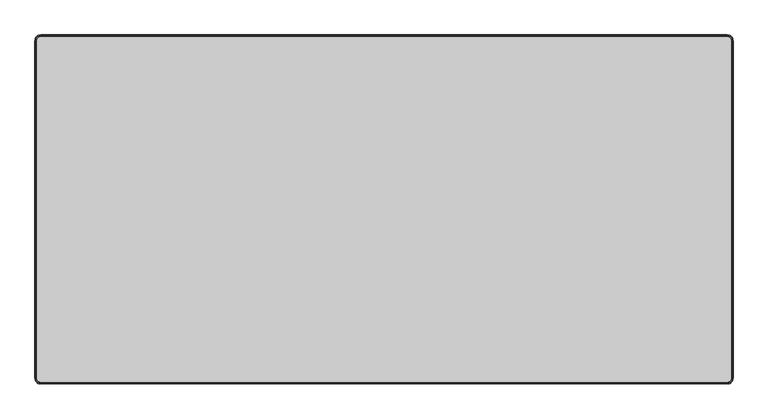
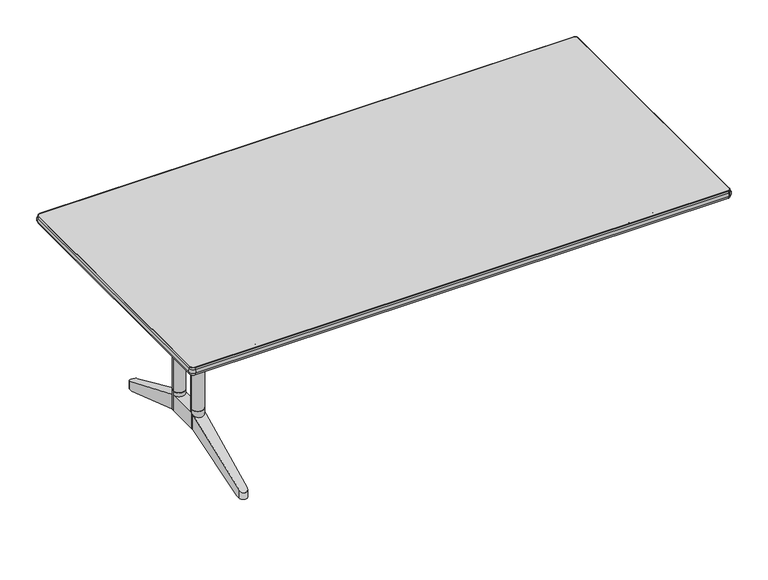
"""IFC4 building model written with IfcOpenShell, lengths in millimetres: furniture geometry."""

from ifc_helpers import new_model, si_unit, point, frame, frame_2d, origin, place, context, project, spatial, polyline, circle_curve, ellipse_curve, trimmed, segment, composite_curve, outline, extrude, source, transform, mapped, element, save
from ifc_brep_helpers import plane_surface, cylinder_surface, revolved_surface, advanced_brep


def furniture_e58b94e2(model_context):
    return source(origin(), model_context, "Body", "SolidModel", [
        extrude(outline(composite_curve([segment(trimmed(circle_curve(frame_2d((-660.4, -154.0488451)), 20.0), [point((-680.4, -154.0488451))], [point((-640.4, -154.0488451))], False, "CARTESIAN"), True, "CONTINUOUS"), segment(trimmed(circle_curve(frame_2d((-660.4, -154.0488451)), 20.0), [point((-640.4, -154.0488451))], [point((-680.4, -154.0488451))], False, "CARTESIAN"), True, "CONTINUOUS")], self_intersect=False)), frame((0.0, 0.0, 193.3080085), z_axis=(0.0, 0.0, 1.0), x_axis=(1.0, 0.0, 0.0)), (0.0, 0.0, 1.0), 68.8536941),
        extrude(outline(composite_curve([segment(trimmed(circle_curve(frame_2d((-660.4, -44.0488461)), 20.0), [point((-680.4, -44.0488461))], [point((-640.4, -44.0488461))], False, "CARTESIAN"), True, "CONTINUOUS"), segment(trimmed(circle_curve(frame_2d((-660.4, -44.0488461)), 20.0), [point((-640.4, -44.0488461))], [point((-680.4, -44.0488461))], False, "CARTESIAN"), True, "CONTINUOUS")], self_intersect=False)), frame((0.0, 0.0, 193.3080085), z_axis=(0.0, 0.0, 1.0), x_axis=(1.0, 0.0, 0.0)), (0.0, 0.0, 1.0), 68.8536941),
        extrude(outline(composite_curve([segment(trimmed(circle_curve(frame_2d((-660.4, -154.0488451)), 20.0), [point((-680.4, -154.0488451))], [point((-640.4, -154.0488451))], False, "CARTESIAN"), True, "CONTINUOUS"), segment(trimmed(circle_curve(frame_2d((-660.4, -154.0488451)), 20.0), [point((-640.4, -154.0488451))], [point((-680.4, -154.0488451))], False, "CARTESIAN"), True, "CONTINUOUS")], self_intersect=False)), frame((0.0, 0.0, 262.1617027), z_axis=(0.0, 0.0, 1.0), x_axis=(1.0, 0.0, 0.0)), (0.0, 0.0, 1.0), 318.0882973),
        extrude(outline(composite_curve([segment(trimmed(circle_curve(frame_2d((-660.4, -44.0488461)), 20.0), [point((-680.4, -44.0488461))], [point((-640.4, -44.0488461))], False, "CARTESIAN"), True, "CONTINUOUS"), segment(trimmed(circle_curve(frame_2d((-660.4, -44.0488461)), 20.0), [point((-640.4, -44.0488461))], [point((-680.4, -44.0488461))], False, "CARTESIAN"), True, "CONTINUOUS")], self_intersect=False)), frame((0.0, 0.0, 262.1617027), z_axis=(0.0, 0.0, 1.0), x_axis=(1.0, 0.0, 0.0)), (0.0, 0.0, 1.0), 318.0882973),
        extrude(outline(polyline([(-634.3999882, 147.9511612), (-634.3999882, -352.0488426), (-686.4000118, -352.0488426), (-686.4000118, 147.9511612), (-634.3999882, 147.9511612)])), frame((0.0, 0.0, 676.2500168), z_axis=(0.0, 0.0, 1.0), x_axis=(1.0, 0.0, 0.0)), (0.0, 0.0, 1.0), 27.9999624),
        advanced_brep(
        [(-675.3998762, -140.8200278, 676.2500168), (-645.3998905, -140.8201331, 676.2500168), (-645.3998905, -134.0488456, 676.2500168), (-675.3998762, -134.0488456, 676.2500168), (-645.3998905, -57.2775581, 676.2500168), (-675.3998762, -57.2776634, 676.2500168), (-675.3998762, -64.0488456, 676.2500168), (-645.3998905, -64.0488456, 676.2500168), (-675.3998762, -57.2776634, 580.25), (-645.3998905, -57.2775581, 580.25), (-645.3998905, -140.8201331, 580.25), (-675.3998762, -140.8200278, 580.25), (-675.3998762, -134.0488456, 598.2500176), (-675.3998762, -64.0488456, 598.2500176), (-645.3998905, -64.0488456, 598.2500176), (-645.3998905, -134.0488456, 598.2500176)],
        [
            (0, 1, circle_curve(frame((-660.3999298, -154.0488451, 676.2500168), z_axis=(0.0, 0.0, 1.0), x_axis=(1.0, 0.0, 0.0)), 20.0)),
            (1, 2),
            (2, 3),
            (3, 0),
            (4, 5, circle_curve(frame((-660.3999298, -44.0488461, 676.2500168), z_axis=(0.0, 0.0, 1.0), x_axis=(1.0, 0.0, 0.0)), 20.0)),
            (5, 6),
            (6, 7),
            (7, 4),
            (8, 9, circle_curve(frame((-660.3999298, -44.0488461, 580.25), z_axis=(0.0, 0.0, -1.0), x_axis=(1.0, 0.0, 0.0)), 20.0)),
            (9, 10),
            (10, 11, circle_curve(frame((-660.3999298, -154.0488451, 580.25), z_axis=(0.0, 0.0, -1.0), x_axis=(1.0, 0.0, 0.0)), 20.0)),
            (11, 8),
            (11, 0),
            (3, 12),
            (12, 13),
            (13, 6),
            (5, 8),
            (10, 1),
            (9, 4),
            (7, 14),
            (14, 15),
            (15, 2),
            (15, 12),
            (14, 13),
        ],
        [
            plane_surface(frame((-675.3998762, -140.8200278, 676.2500168), z_axis=(0.0, 0.0, 1.0), x_axis=(0.0, -1.0, 0.0))),
            plane_surface(frame((-675.3998762, -140.8200278, 580.25), z_axis=(0.0, 0.0, -1.0), x_axis=(0.0, 1.0, 0.0))),
            plane_surface(frame((-675.3998762, -57.2776634, 676.2500168), z_axis=(-1.0, 0.0, 0.0), x_axis=(0.0, 0.0, -1.0))),
            cylinder_surface(frame((-660.3999298, -154.0488451, 580.25), z_axis=(0.0, 0.0, 1.0), x_axis=(1.0, 0.0, 0.0)), 20.0),
            plane_surface(frame((-645.3998905, -140.8201331, 676.2500168), z_axis=(1.0, 0.0, 0.0), x_axis=(0.0, 0.0, -1.0))),
            cylinder_surface(frame((-660.3999298, -44.0488461, 580.25), z_axis=(0.0, 0.0, 1.0), x_axis=(1.0, 0.0, 0.0)), 20.0),
            plane_surface(frame((-645.3998905, -134.0488456, 676.2500168), z_axis=(0.0, 1.0, 0.0), x_axis=(-1.0, 0.0, 0.0))),
            plane_surface(frame((-645.3998905, -134.0488456, 598.2500176), z_axis=(0.0, 0.0, 1.0), x_axis=(-1.0, 0.0, 0.0))),
            plane_surface(frame((-645.3998905, -64.0488456, 598.2500176), z_axis=(0.0, -1.0, 0.0), x_axis=(-1.0, 0.0, 0.0))),
        ],
        [
            (0, [[1, 2, 3, 4]]),
            (0, [[5, 6, 7, 8]]),
            (1, [[9, 10, 11, 12]]),
            (2, [[-12, 13, -4, 14, 15, 16, -6, 17]]),
            (3, [[-1, -13, -11, 18]]),
            (4, [[-10, 19, -8, 20, 21, 22, -2, -18]]),
            (5, [[-5, -19, -9, -17]]),
            (6, [[23, -14, -3, -22]]),
            (7, [[-23, -21, 24, -15]]),
            (8, [[-24, -20, -7, -16]]),
        ],
    ),
        advanced_brep(
        [(-640.4000182, -154.0488451, 248.3080085), (-640.4000182, -44.0488461, 248.3080085), (-680.4000182, -44.0488461, 248.3080085), (-680.4000182, -154.0488451, 248.3080085), (-680.4000182, -44.0488461, 193.3080085), (-680.4000182, -154.0488451, 193.3080085), (-640.4000182, -154.0488451, 193.3080085), (-640.4000182, -44.0488461, 193.3080085), (-646.9271049, 208.4135103, 105.0), (-673.872897, 208.4135103, 105.0), (-673.5262294, 221.8222582, 105.0), (-647.2737706, 221.8222564, 105.0), (-673.5262294, 221.8222582, 133.4205559), (-647.2737706, 221.8222564, 133.4205567), (-640.6000412, -36.3121196, 193.3080085), (-680.1999941, -36.3121196, 193.3080085), (-647.2737706, -419.9199475, 133.4205567), (-673.5262294, -419.9199493, 133.4205559), (-647.2737706, -419.9199475, 105.0), (-646.9271049, -406.5112014, 105.0), (-640.6000412, -161.7855715, 193.3080085), (-673.5262294, -419.9199493, 105.0), (-680.1999941, -161.7855715, 193.3080085), (-673.872897, -406.5112014, 105.0)],
        [
            (0, 1),
            (1, 2),
            (2, 3),
            (3, 0),
            (2, 4),
            (4, 5),
            (5, 3),
            (0, 6),
            (6, 7),
            (7, 1),
            (8, 9),
            (9, 10),
            (10, 11, circle_curve(frame((-660.4, 221.4828948, 105.0), z_axis=(0.0, 0.0, -1.0), x_axis=(1.0, 0.0, 0.0)), 13.1306156)),
            (11, 8),
            (12, 2),
            (1, 13),
            (13, 12, ellipse_curve(frame((-660.4, 221.4828948, 133.5672007), z_axis=(0.0, 0.3966672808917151, 0.9179624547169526), x_axis=(0.0, 0.9179624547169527, -0.39666728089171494)), 14.3040878, 13.1306156)),
            (8, 14),
            (14, 15),
            (15, 9),
            (16, 0),
            (3, 17),
            (17, 16, ellipse_curve(frame((-660.4, -419.5805859, 133.5672007), z_axis=(0.0, -0.3966672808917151, 0.9179624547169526), x_axis=(0.0, -0.9179624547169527, -0.39666728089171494)), 14.3040878, 13.1306156)),
            (16, 18),
            (18, 19),
            (19, 20),
            (20, 6),
            (17, 21),
            (21, 18, circle_curve(frame((-660.4, -419.5805859, 105.0), z_axis=(0.0, 0.0, 1.0), x_axis=(1.0, 0.0, 0.0)), 13.1306156)),
            (5, 22),
            (22, 23),
            (23, 21),
            (12, 10),
            (15, 4),
            (13, 11),
            (7, 14),
            (23, 19),
            (22, 20),
        ],
        [
            plane_surface(frame((-640.4000182, -44.0488461, 248.3080085), z_axis=(0.0, 0.0, 1.0), x_axis=(0.0, 1.0, 0.0))),
            plane_surface(frame((-680.4000182, -44.0488461, 248.3080085), z_axis=(-1.0, 0.0, 0.0), x_axis=(0.0, 0.0, -1.0))),
            plane_surface(frame((-640.4000182, -154.0488451, 248.3080085), z_axis=(1.0, 0.0, 0.0), x_axis=(0.0, 0.0, -1.0))),
            plane_surface(frame((-639.0205415, 208.4135103, 105.0), z_axis=(0.0, 0.0, -1.0), x_axis=(-1.0, 0.0, 0.0))),
            plane_surface(frame((-639.0205415, 235.9511544, 127.3152182), z_axis=(0.0, 0.3966672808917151, 0.9179624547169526), x_axis=(-1.0, 0.0, 0.0))),
            plane_surface(frame((-639.0205415, -36.3121196, 193.3080085), z_axis=(0.0, -0.3394229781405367, -0.9406338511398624), x_axis=(-1.0, 0.0, 0.0))),
            plane_surface(frame((-639.0205415, -154.0488451, 248.3080085), z_axis=(0.0, -0.3966672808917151, 0.9179624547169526), x_axis=(-1.0, 0.0, 0.0))),
            plane_surface(frame((-640.4000182, -154.0488451, 249.0000084), z_axis=(0.9996659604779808, -0.025845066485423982, 0.0), x_axis=(0.0, 0.0, -1.0))),
            cylinder_surface(frame((-660.4, -419.5805859, 90.0000025), z_axis=(0.0, 0.0, -1.0), x_axis=(1.0, 0.0, 0.0)), 13.1306156),
            plane_surface(frame((-673.5262294, -419.9199493, 249.0000084), z_axis=(-0.9996659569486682, -0.025845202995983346, 0.0), x_axis=(0.0, 0.0, -1.0))),
            plane_surface(frame((-680.4000182, -44.0488461, 249.0000084), z_axis=(-0.9996659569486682, 0.025845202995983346, 0.0), x_axis=(0.0, 0.0, -1.0))),
            cylinder_surface(frame((-660.4, 221.4828948, 0.0), z_axis=(0.0, 0.0, -1.0), x_axis=(1.0, 0.0, 0.0)), 13.1306156),
            plane_surface(frame((-647.2737706, 221.8222564, 249.0000084), z_axis=(0.9996659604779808, 0.025845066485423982, 0.0), x_axis=(0.0, 0.0, -1.0))),
            plane_surface(frame((-639.0205415, -434.0488456, 105.0), z_axis=(0.0, 0.0, -1.0), x_axis=(-1.0, 0.0, 0.0))),
            plane_surface(frame((-639.0205415, -406.5112014, 105.0), z_axis=(0.0, 0.3394229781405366, -0.9406338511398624), x_axis=(-1.0, 0.0, 0.0))),
            plane_surface(frame((-639.0205415, -44.0488461, 193.3080085), z_axis=(0.0, 0.0, -1.0), x_axis=(-1.0, 0.0, 0.0))),
        ],
        [
            (0, [[1, 2, 3, 4]]),
            (1, [[-3, 5, 6, 7]]),
            (2, [[-1, 8, 9, 10]]),
            (3, [[11, 12, 13, 14]]),
            (4, [[15, -2, 16, 17]]),
            (5, [[-11, 18, 19, 20]]),
            (6, [[21, -4, 22, 23]]),
            (7, [[24, 25, 26, 27, -8, -21]]),
            (8, [[-24, -23, 28, 29]]),
            (9, [[-28, -22, -7, 30, 31, 32]]),
            (10, [[33, -12, -20, 34, -5, -15]]),
            (11, [[-33, -17, 35, -13]]),
            (12, [[-35, -16, -10, 36, -18, -14]]),
            (13, [[37, -25, -29, -32]]),
            (14, [[-37, -31, 38, -26]]),
            (15, [[-19, -36, -9, -27, -38, -30, -6, -34]]),
        ],
    ),
        extrude(outline(composite_curve([segment(trimmed(circle_curve(frame_2d((-899.4, 343.1511544)), 10.0), [point((-909.4, 343.1511544))], [point((-899.4, 353.1511544))], False, "CARTESIAN"), True, "CONTINUOUS"), segment(polyline([(-899.4, 353.1511544), (899.4, 353.1511544)]), True, "CONTINUOUS"), segment(trimmed(circle_curve(frame_2d((899.4, 343.1511544)), 10.0), [point((899.4, 353.1511544))], [point((909.4, 343.1511544))], False, "CARTESIAN"), True, "CONTINUOUS"), segment(polyline([(909.4, 343.1511544), (909.4, -541.2488456)]), True, "CONTINUOUS"), segment(trimmed(circle_curve(frame_2d((899.4, -541.2488456)), 10.0), [point((909.4, -541.2488456))], [point((899.4, -551.2488456))], False, "CARTESIAN"), True, "CONTINUOUS"), segment(polyline([(899.4, -551.2488456), (-899.4, -551.2488456)]), True, "CONTINUOUS"), segment(trimmed(circle_curve(frame_2d((-899.4, -541.2488456)), 10.0), [point((-899.4, -551.2488456))], [point((-909.4, -541.2488456))], False, "CARTESIAN"), True, "CONTINUOUS"), segment(polyline([(-909.4, -541.2488456), (-909.4, 343.1511544)]), True, "CONTINUOUS")], self_intersect=False)), frame((0.0, 0.0, 704.2499792), z_axis=(0.0, 0.0, 1.0), x_axis=(1.0, 0.0, 0.0)), (0.0, 0.0, 1.0), 26.0000208),
        extrude(outline(composite_curve([segment(trimmed(circle_curve(frame_2d((690.249998, -660.4)), 3.5), [point((686.749998, -660.4))], [point((693.749998, -660.4))], False, "CARTESIAN"), True, "CONTINUOUS"), segment(trimmed(circle_curve(frame_2d((690.249998, -660.4)), 3.5), [point((693.749998, -660.4))], [point((686.749998, -660.4))], False, "CARTESIAN"), True, "CONTINUOUS")], self_intersect=False)), frame((0.0, -482.6394749, 0.0), z_axis=(0.0, 1.0, 0.0), x_axis=(0.0, 0.0, 1.0)), (0.0, 0.0, 1.0), 130.5906323),
        extrude(outline(composite_curve([segment(trimmed(circle_curve(frame_2d((690.249998, 660.4)), 3.5), [point((686.749998, 660.4))], [point((693.749998, 660.4))], False, "CARTESIAN"), True, "CONTINUOUS"), segment(trimmed(circle_curve(frame_2d((690.249998, 660.4)), 3.5), [point((693.749998, 660.4))], [point((686.749998, 660.4))], False, "CARTESIAN"), True, "CONTINUOUS")], self_intersect=False)), frame((0.0, -482.6394749, 0.0), z_axis=(0.0, 1.0, 0.0), x_axis=(0.0, 0.0, 1.0)), (0.0, 0.0, 1.0), 130.5906323),
        advanced_brep(
        [(-899.4, -551.2488456, 704.2499792), (-909.4, -541.2488456, 704.2499792), (-909.4, -541.2488456, 730.25), (-899.4, -551.2488456, 730.25), (-899.4, -554.6983863, 710.6562743), (-912.8495407, -541.2488456, 710.6562743), (-910.6436764, -541.2488456, 704.2499792), (-899.4, -552.492522, 704.2499792), (-899.4, -554.6983863, 723.843705), (-912.8495407, -541.2488456, 723.843705), (-899.4, -552.492522, 730.25), (-910.6436764, -541.2488456, 730.25), (899.4, -551.2488456, 730.25), (899.4, -551.2488456, 704.2499792), (899.4, -552.492522, 704.2499792), (899.4, -554.6983863, 710.6562743), (899.4, -554.6983863, 723.843705), (899.4, -552.492522, 730.25), (909.4, -541.2488456, 704.2499792), (909.4, -541.2488456, 730.25), (912.8495407, -541.2488456, 710.6562743), (910.6436764, -541.2488456, 704.2499792), (912.8495407, -541.2488456, 723.843705), (910.6436764, -541.2488456, 730.25), (909.4, 343.1511544, 730.25), (909.4, 343.1511544, 704.2499792), (910.6436764, 343.1511544, 704.2499792), (912.8495407, 343.1511544, 710.6562743), (912.8495407, 343.1511544, 723.843705), (910.6436764, 343.1511544, 730.25), (899.4, 353.1511544, 704.2499792), (899.4, 353.1511544, 730.25), (899.4, 356.6006952, 710.6562743), (899.4, 354.3948309, 704.2499792), (899.4, 356.6006952, 723.843705), (899.4, 354.3948309, 730.25), (-899.4, 353.1511544, 730.25), (-899.4, 353.1511544, 704.2499792), (-899.4, 354.3948309, 704.2499792), (-899.4, 356.6006952, 710.6562743), (-899.4, 356.6006952, 723.843705), (-899.4, 354.3948309, 730.25), (-909.4, 343.1511544, 704.2499792), (-909.4, 343.1511544, 730.25), (-912.8495407, 343.1511544, 710.6562743), (-910.6436764, 343.1511544, 704.2499792), (-912.8495407, 343.1511544, 723.843705), (-910.6436764, 343.1511544, 730.25)],
        [
            (0, 1, circle_curve(frame((-899.4, -541.2488456, 704.2499792), z_axis=(0.0, 0.0, -1.0), x_axis=(-1.0, 0.0, 0.0)), 10.0)),
            (1, 2),
            (2, 3, circle_curve(frame((-899.4, -541.2488456, 730.25), z_axis=(0.0, 0.0, 1.0), x_axis=(-1.0, 0.0, 0.0)), 10.0)),
            (3, 0),
            (4, 5, circle_curve(frame((-899.4, -541.2488456, 710.6562743), z_axis=(0.0, 0.0, -1.0), x_axis=(-1.0, 0.0, 0.0)), 13.4495407)),
            (5, 6),
            (6, 7, circle_curve(frame((-899.4, -541.2488456, 704.2499792), z_axis=(0.0, 0.0, 1.0), x_axis=(-1.0, 0.0, 0.0)), 11.2436764)),
            (7, 4),
            (8, 9, circle_curve(frame((-899.4, -541.2488456, 723.843705), z_axis=(0.0, 0.0, -1.0), x_axis=(-1.0, 0.0, 0.0)), 13.4495407)),
            (9, 5, circle_curve(frame((-899.6040596, -541.2488456, 717.2499896), z_axis=(0.0, -1.0, 0.0), x_axis=(1.0, 0.0, 0.0)), 14.7959404)),
            (4, 8, circle_curve(frame((-899.4, -541.4529051, 717.2499896), z_axis=(-1.0, 0.0, 0.0), x_axis=(0.0, 1.0, 0.0)), 14.7959404)),
            (10, 11, circle_curve(frame((-899.4, -541.2488456, 730.25), z_axis=(0.0, 0.0, -1.0), x_axis=(-1.0, 0.0, 0.0)), 11.2436764)),
            (11, 9),
            (8, 10),
            (3, 12),
            (12, 13),
            (13, 0),
            (7, 14),
            (14, 15),
            (15, 4),
            (15, 16, circle_curve(frame((899.4, -541.4529051, 717.2499896), z_axis=(-1.0, 0.0, 0.0), x_axis=(0.0, 1.0, 0.0)), 14.7959404)),
            (16, 8),
            (16, 17),
            (17, 10),
            (18, 13, circle_curve(frame((899.4, -541.2488456, 704.2499792), z_axis=(0.0, 0.0, -1.0), x_axis=(0.0, -1.0, 0.0)), 10.0)),
            (12, 19, circle_curve(frame((899.4, -541.2488456, 730.25), z_axis=(0.0, 0.0, 1.0), x_axis=(0.0, -1.0, 0.0)), 10.0)),
            (19, 18),
            (20, 15, circle_curve(frame((899.4, -541.2488456, 710.6562743), z_axis=(0.0, 0.0, -1.0), x_axis=(0.0, -1.0, 0.0)), 13.4495407)),
            (14, 21, circle_curve(frame((899.4, -541.2488456, 704.2499792), z_axis=(0.0, 0.0, 1.0), x_axis=(0.0, -1.0, 0.0)), 11.2436764)),
            (21, 20),
            (22, 16, circle_curve(frame((899.4, -541.2488456, 723.843705), z_axis=(0.0, 0.0, -1.0), x_axis=(0.0, -1.0, 0.0)), 13.4495407)),
            (20, 22, circle_curve(frame((899.6040596, -541.2488456, 717.2499896), z_axis=(0.0, -1.0, 0.0), x_axis=(-1.0, 0.0, 0.0)), 14.7959404)),
            (23, 17, circle_curve(frame((899.4, -541.2488456, 730.25), z_axis=(0.0, 0.0, -1.0), x_axis=(0.0, -1.0, 0.0)), 11.2436764)),
            (22, 23),
            (19, 24),
            (24, 25),
            (25, 18),
            (21, 26),
            (26, 27),
            (27, 20),
            (27, 28, circle_curve(frame((899.6040596, 343.1511544, 717.2499896), z_axis=(0.0, -1.0, 0.0), x_axis=(-1.0, 0.0, 0.0)), 14.7959404)),
            (28, 22),
            (28, 29),
            (29, 23),
            (30, 25, circle_curve(frame((899.4, 343.1511544, 704.2499792), z_axis=(0.0, 0.0, -1.0), x_axis=(1.0, 0.0, 0.0)), 10.0)),
            (24, 31, circle_curve(frame((899.4, 343.1511544, 730.25), z_axis=(0.0, 0.0, 1.0), x_axis=(1.0, 0.0, 0.0)), 10.0)),
            (31, 30),
            (32, 27, circle_curve(frame((899.4, 343.1511544, 710.6562743), z_axis=(0.0, 0.0, -1.0), x_axis=(1.0, 0.0, 0.0)), 13.4495407)),
            (26, 33, circle_curve(frame((899.4, 343.1511544, 704.2499792), z_axis=(0.0, 0.0, 1.0), x_axis=(1.0, 0.0, 0.0)), 11.2436764)),
            (33, 32),
            (34, 28, circle_curve(frame((899.4, 343.1511544, 723.843705), z_axis=(0.0, 0.0, -1.0), x_axis=(1.0, 0.0, 0.0)), 13.4495407)),
            (32, 34, circle_curve(frame((899.4, 343.355214, 717.2499896), z_axis=(1.0, 0.0, 0.0), x_axis=(0.0, -1.0, 0.0)), 14.7959404)),
            (35, 29, circle_curve(frame((899.4, 343.1511544, 730.25), z_axis=(0.0, 0.0, -1.0), x_axis=(1.0, 0.0, 0.0)), 11.2436764)),
            (34, 35),
            (31, 36),
            (36, 37),
            (37, 30),
            (33, 38),
            (38, 39),
            (39, 32),
            (39, 40, circle_curve(frame((-899.4, 343.355214, 717.2499896), z_axis=(1.0, 0.0, 0.0), x_axis=(0.0, -1.0, 0.0)), 14.7959404)),
            (40, 34),
            (40, 41),
            (41, 35),
            (42, 37, circle_curve(frame((-899.4, 343.1511544, 704.2499792), z_axis=(0.0, 0.0, -1.0), x_axis=(0.0, 1.0, 0.0)), 10.0)),
            (36, 43, circle_curve(frame((-899.4, 343.1511544, 730.25), z_axis=(0.0, 0.0, 1.0), x_axis=(0.0, 1.0, 0.0)), 10.0)),
            (43, 42),
            (44, 39, circle_curve(frame((-899.4, 343.1511544, 710.6562743), z_axis=(0.0, 0.0, -1.0), x_axis=(0.0, 1.0, 0.0)), 13.4495407)),
            (38, 45, circle_curve(frame((-899.4, 343.1511544, 704.2499792), z_axis=(0.0, 0.0, 1.0), x_axis=(0.0, 1.0, 0.0)), 11.2436764)),
            (45, 44),
            (46, 40, circle_curve(frame((-899.4, 343.1511544, 723.843705), z_axis=(0.0, 0.0, -1.0), x_axis=(0.0, 1.0, 0.0)), 13.4495407)),
            (44, 46, circle_curve(frame((-899.6040596, 343.1511544, 717.2499896), z_axis=(0.0, 1.0, 0.0), x_axis=(1.0, 0.0, 0.0)), 14.7959404)),
            (47, 41, circle_curve(frame((-899.4, 343.1511544, 730.25), z_axis=(0.0, 0.0, -1.0), x_axis=(0.0, 1.0, 0.0)), 11.2436764)),
            (46, 47),
            (43, 2),
            (1, 42),
            (45, 6),
            (5, 44),
            (9, 46),
            (11, 47),
        ],
        [
            revolved_surface(polyline([(-909.4, -541.2488456, 730.25), (-909.4, -541.2488456, 704.2499792)]), (-899.4, -541.2488456, 730.25), (0.0, 0.0, 1.0)),
            revolved_surface(polyline([(-910.6436764, -541.2488456, 704.2499792), (-912.8495407, -541.2488456, 710.6562743)]), (-899.4, -541.2488456, 730.25), (0.0, 0.0, 1.0)),
            revolved_surface(trimmed(ellipse_curve(frame((-899.6040596, -541.2488456, 717.2499896), z_axis=(0.0, 1.0, 0.0), x_axis=(1.0, 0.0, 0.0)), 14.7959404, 14.7959404), [point((-912.8495407, -541.2488456, 710.6562743))], [point((-912.8495407, -541.2488456, 723.843705))], True, "CARTESIAN"), (-899.4, -541.2488456, 730.25), (0.0, 0.0, 1.0)),
            revolved_surface(polyline([(-912.8495407, -541.2488456, 723.843705), (-910.6436764, -541.2488456, 730.25)]), (-899.4, -541.2488456, 730.25), (0.0, 0.0, 1.0)),
            plane_surface(frame((-899.4, -551.2488456, 730.25), z_axis=(0.0, 1.0, 0.0), x_axis=(1.0, 0.0, 0.0))),
            plane_surface(frame((-899.4, -552.492522, 704.2499792), z_axis=(0.0, -0.9455185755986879, -0.32556815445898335), x_axis=(1.0, 0.0, 0.0))),
            cylinder_surface(frame((-899.4, -541.4529051, 717.2499896), z_axis=(-1.0, 0.0, 0.0), x_axis=(0.0, 1.0, 0.0)), 14.7959404),
            plane_surface(frame((-899.4, -554.6983863, 723.843705), z_axis=(0.0, -0.945518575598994, 0.32556815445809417), x_axis=(1.0, 0.0, 0.0))),
            revolved_surface(polyline([(899.4, -551.2488456, 730.25), (899.4, -551.2488456, 704.2499792)]), (899.4, -541.2488456, 730.25), (0.0, 0.0, 1.0)),
            revolved_surface(polyline([(899.4, -552.492522, 704.2499792), (899.4, -554.6983863, 710.6562743)]), (899.4, -541.2488456, 730.25), (0.0, 0.0, 1.0)),
            revolved_surface(trimmed(ellipse_curve(frame((899.4, -541.4529051, 717.2499896), z_axis=(-1.0, 0.0, 0.0), x_axis=(0.0, 1.0, 0.0)), 14.7959404, 14.7959404), [point((899.4, -554.6983863, 710.6562743))], [point((899.4, -554.6983863, 723.843705))], True, "CARTESIAN"), (899.4, -541.2488456, 730.25), (0.0, 0.0, 1.0)),
            revolved_surface(polyline([(899.4, -554.6983863, 723.843705), (899.4, -552.492522, 730.25)]), (899.4, -541.2488456, 730.25), (0.0, 0.0, 1.0)),
            plane_surface(frame((909.4, -541.2488456, 730.25), z_axis=(-1.0, 0.0, 0.0), x_axis=(0.0, 1.0, 0.0))),
            plane_surface(frame((910.6436764, -541.2488456, 704.2499792), z_axis=(0.9455185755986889, 0.0, -0.32556815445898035), x_axis=(0.0, 1.0, 0.0))),
            cylinder_surface(frame((899.6040596, -541.2488456, 717.2499896), z_axis=(0.0, -1.0, 0.0), x_axis=(-1.0, 0.0, 0.0)), 14.7959404),
            plane_surface(frame((912.8495407, -541.2488456, 723.843705), z_axis=(0.945518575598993, 0.0, 0.32556815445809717), x_axis=(0.0, 1.0, 0.0))),
            revolved_surface(polyline([(909.4, 343.1511544, 730.25), (909.4, 343.1511544, 704.2499792)]), (899.4, 343.1511544, 730.25), (0.0, 0.0, 1.0)),
            revolved_surface(polyline([(910.6436764, 343.1511544, 704.2499792), (912.8495407, 343.1511544, 710.6562743)]), (899.4, 343.1511544, 730.25), (0.0, 0.0, 1.0)),
            revolved_surface(trimmed(ellipse_curve(frame((899.6040596, 343.1511544, 717.2499896), z_axis=(0.0, -1.0, 0.0), x_axis=(-1.0, 0.0, 0.0)), 14.7959404, 14.7959404), [point((912.8495407, 343.1511544, 710.6562743))], [point((912.8495407, 343.1511544, 723.843705))], True, "CARTESIAN"), (899.4, 343.1511544, 730.25), (0.0, 0.0, 1.0)),
            revolved_surface(polyline([(912.8495407, 343.1511544, 723.843705), (910.6436764, 343.1511544, 730.25)]), (899.4, 343.1511544, 730.25), (0.0, 0.0, 1.0)),
            plane_surface(frame((899.4, 353.1511544, 730.25), z_axis=(0.0, -1.0, 0.0), x_axis=(-1.0, 0.0, 0.0))),
            plane_surface(frame((899.4, 354.3948309, 704.2499792), z_axis=(0.0, 0.9455185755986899, -0.32556815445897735), x_axis=(-1.0, 0.0, 0.0))),
            cylinder_surface(frame((899.4, 343.355214, 717.2499896), z_axis=(1.0, 0.0, 0.0), x_axis=(0.0, -1.0, 0.0)), 14.7959404),
            plane_surface(frame((899.4, 356.6006952, 723.843705), z_axis=(0.0, 0.945518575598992, 0.32556815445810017), x_axis=(-1.0, 0.0, 0.0))),
            revolved_surface(polyline([(-899.4, 353.1511544, 730.25), (-899.4, 353.1511544, 704.2499792)]), (-899.4, 343.1511544, 730.25), (0.0, 0.0, 1.0)),
            revolved_surface(polyline([(-899.4, 354.3948309, 704.2499792), (-899.4, 356.6006952, 710.6562743)]), (-899.4, 343.1511544, 730.25), (0.0, 0.0, 1.0)),
            revolved_surface(trimmed(ellipse_curve(frame((-899.4, 343.355214, 717.2499896), z_axis=(1.0, 0.0, 0.0), x_axis=(0.0, -1.0, 0.0)), 14.7959404, 14.7959404), [point((-899.4, 356.6006952, 710.6562743))], [point((-899.4, 356.6006952, 723.843705))], True, "CARTESIAN"), (-899.4, 343.1511544, 730.25), (0.0, 0.0, 1.0)),
            revolved_surface(polyline([(-899.4, 356.6006952, 723.843705), (-899.4, 354.3948309, 730.25)]), (-899.4, 343.1511544, 730.25), (0.0, 0.0, 1.0)),
            plane_surface(frame((-909.4, 343.1511544, 730.25), z_axis=(1.0, 0.0, 0.0), x_axis=(0.0, -1.0, 0.0))),
            plane_surface(frame((-910.6436764, 343.1511544, 704.2499792), z_axis=(-0.9455185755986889, 0.0, -0.32556815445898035), x_axis=(0.0, -1.0, 0.0))),
            cylinder_surface(frame((-899.6040596, 343.1511544, 717.2499896), z_axis=(0.0, 1.0, 0.0), x_axis=(1.0, 0.0, 0.0)), 14.7959404),
            plane_surface(frame((-912.8495407, 343.1511544, 723.843705), z_axis=(-0.945518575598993, 0.0, 0.32556815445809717), x_axis=(0.0, -1.0, 0.0))),
            plane_surface(frame((-909.4, 343.1511544, 704.2499792), z_axis=(0.0, 0.0, -1.0), x_axis=(0.0, -1.0, 0.0))),
            plane_surface(frame((-910.6436764, 343.1511544, 730.25), z_axis=(0.0, 0.0, 1.0), x_axis=(0.0, -1.0, 0.0))),
        ],
        [
            (0, [[1, 2, 3, 4]]),
            (1, [[5, 6, 7, 8]]),
            (2, [[9, 10, -5, 11]]),
            (3, [[12, 13, -9, 14]]),
            (4, [[-4, 15, 16, 17]]),
            (5, [[-8, 18, 19, 20]]),
            (6, [[-11, -20, 21, 22]]),
            (7, [[-14, -22, 23, 24]]),
            (8, [[25, -16, 26, 27]]),
            (9, [[28, -19, 29, 30]]),
            (10, [[31, -21, -28, 32]]),
            (11, [[33, -23, -31, 34]]),
            (12, [[-27, 35, 36, 37]]),
            (13, [[-30, 38, 39, 40]]),
            (14, [[-32, -40, 41, 42]]),
            (15, [[-34, -42, 43, 44]]),
            (16, [[45, -36, 46, 47]]),
            (17, [[48, -39, 49, 50]]),
            (18, [[51, -41, -48, 52]]),
            (19, [[53, -43, -51, 54]]),
            (20, [[-47, 55, 56, 57]]),
            (21, [[-50, 58, 59, 60]]),
            (22, [[-52, -60, 61, 62]]),
            (23, [[-54, -62, 63, 64]]),
            (24, [[65, -56, 66, 67]]),
            (25, [[68, -59, 69, 70]]),
            (26, [[71, -61, -68, 72]]),
            (27, [[73, -63, -71, 74]]),
            (28, [[-67, 75, -2, 76]]),
            (29, [[-70, 77, -6, 78]]),
            (30, [[-72, -78, -10, 79]]),
            (31, [[-74, -79, -13, 80]]),
            (32, [[-77, -69, -58, -49, -38, -29, -18, -7], [-57, -65, -76, -1, -17, -25, -37, -45]]),
            (33, [[-64, -73, -80, -12, -24, -33, -44, -53], [-75, -66, -55, -46, -35, -26, -15, -3]]),
        ],
    ),
        advanced_brep(
        [(-686.3999286, -482.6394749, 701.9835614), (-686.3999286, -482.6394749, 686.9835614), (-605.5927788, -482.6394749, 678.983541), (-604.400359, -482.6394749, 693.983541), (604.400359, -482.6394749, 693.983541), (605.5927788, -482.6394749, 678.983541), (686.2748715, -482.6394749, 701.9835614), (686.2748715, -482.6394749, 686.9835614), (654.4003594, -482.6394749, 701.9835614), (655.5927792, -482.6394749, 686.9835614), (-654.4003594, -482.6394749, 701.9835614), (-655.5927792, -482.6394749, 686.9835614)],
        [
            (0, 1, circle_curve(frame((-686.3999286, -482.6394749, 694.4835614), z_axis=(-1.0, 0.0, 0.0), x_axis=(0.0, 0.0, -1.0)), 7.5)),
            (1, 0, circle_curve(frame((-686.3999286, -482.6394749, 694.4835614), z_axis=(-1.0, 0.0, 0.0), x_axis=(0.0, 0.0, -1.0)), 7.5)),
            (2, 3, ellipse_curve(frame((-604.9965689, -482.6394749, 686.483541), z_axis=(0.9968551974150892, 0.0, -0.07924465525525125), x_axis=(-0.07924465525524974, 0.0, -0.9968551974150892)), 7.5236604, 7.5)),
            (3, 4),
            (4, 5, ellipse_curve(frame((604.9965689, -482.6394749, 686.483541), z_axis=(-0.9968551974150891, 0.0, -0.07924465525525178), x_axis=(-0.07924465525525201, 0.0, 0.9968551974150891)), 7.5236604, 7.5)),
            (5, 2),
            (3, 2, ellipse_curve(frame((-604.9965689, -482.6394749, 686.483541), z_axis=(0.9968551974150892, 0.0, -0.07924465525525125), x_axis=(-0.07924465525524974, 0.0, -0.9968551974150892)), 7.5236604, 7.5)),
            (5, 4, ellipse_curve(frame((604.9965689, -482.6394749, 686.483541), z_axis=(-0.9968551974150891, 0.0, -0.07924465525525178), x_axis=(-0.07924465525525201, 0.0, 0.9968551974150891)), 7.5236604, 7.5)),
            (6, 7, circle_curve(frame((686.2748715, -482.6394749, 694.4835614), z_axis=(1.0, 0.0, 0.0), x_axis=(0.0, 0.0, -1.0)), 7.5)),
            (7, 6, circle_curve(frame((686.2748715, -482.6394749, 694.4835614), z_axis=(1.0, 0.0, 0.0), x_axis=(0.0, 0.0, -1.0)), 7.5)),
            (4, 8),
            (8, 9, ellipse_curve(frame((654.9965693, -482.6394749, 694.4835614), z_axis=(-0.9968551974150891, 0.0, -0.07924465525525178), x_axis=(0.07924465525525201, 0.0, -0.9968551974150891)), 7.5236604, 7.5)),
            (9, 5),
            (9, 8, ellipse_curve(frame((654.9965693, -482.6394749, 694.4835614), z_axis=(-0.9968551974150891, 0.0, -0.07924465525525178), x_axis=(0.07924465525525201, 0.0, -0.9968551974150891)), 7.5236604, 7.5)),
            (8, 6),
            (7, 9),
            (0, 10),
            (10, 11, ellipse_curve(frame((-654.9965693, -482.6394749, 694.4835614), z_axis=(-0.9968551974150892, 0.0, 0.07924465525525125), x_axis=(-0.07924465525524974, 0.0, -0.9968551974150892)), 7.5236604, 7.5)),
            (11, 1),
            (11, 10, ellipse_curve(frame((-654.9965693, -482.6394749, 694.4835614), z_axis=(-0.9968551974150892, 0.0, 0.07924465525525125), x_axis=(-0.07924465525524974, 0.0, -0.9968551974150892)), 7.5236604, 7.5)),
            (10, 3),
            (2, 11),
        ],
        [
            plane_surface(frame((-686.3999286, -556.2488456, 664.2500082), z_axis=(-1.0, 0.0, 0.0), x_axis=(0.0, 1.0, 0.0))),
            cylinder_surface(frame((-607.3999746, -482.6394749, 686.483541), z_axis=(-1.0, 0.0, 0.0), x_axis=(0.0, 0.0, -1.0)), 7.5),
            plane_surface(frame((686.2748715, -556.2488456, 664.2500082), z_axis=(1.0, 0.0, 0.0), x_axis=(0.0, 1.0, 0.0))),
            cylinder_surface(frame((602.6233486, -482.6394749, 686.1038248), z_axis=(-0.9874405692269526, 0.0, -0.15799089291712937), x_axis=(0.15799089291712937, 0.0, -0.9874405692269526)), 7.5),
            cylinder_surface(frame((657.399975, -482.6394749, 694.4835614), z_axis=(-1.0, 0.0, 0.0), x_axis=(0.0, 0.0, -1.0)), 7.5),
            cylinder_surface(frame((-686.3999286, -482.6394749, 694.4835614), z_axis=(-1.0, 0.0, 0.0), x_axis=(0.0, 0.0, -1.0)), 7.5),
            cylinder_surface(frame((-652.6233489, -482.6394749, 694.1038452), z_axis=(-0.9874405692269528, 0.0, 0.15799089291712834), x_axis=(-0.15799089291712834, 0.0, -0.9874405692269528)), 7.5),
        ],
        [
            (0, [[1, 2]]),
            (1, [[3, 4, 5, 6]]),
            (1, [[7, -6, 8, -4]]),
            (2, [[9, 10]]),
            (3, [[-5, 11, 12, 13]]),
            (3, [[-8, -13, 14, -11]]),
            (4, [[-12, 15, -10, 16]]),
            (4, [[-14, -16, -9, -15]]),
            (5, [[-1, 17, 18, 19]]),
            (5, [[-2, -19, 20, -17]]),
            (6, [[-18, 21, -3, 22]]),
            (6, [[-20, -22, -7, -21]]),
        ],
    ),
        extrude(outline(polyline([(-66.0488461, 600.2500046), (-66.0488461, 658.2500254), (-64.0488456, 658.2500254), (-64.0488456, 598.2500176), (-134.0488456, 598.2500176), (-134.0488456, 658.2500254), (-132.048845, 658.2500254), (-132.048845, 600.2500046), (-66.0488461, 600.2500046)])), frame((-675.4, 0.0, 0.0), z_axis=(1.0, 0.0, 0.0), x_axis=(0.0, 1.0, 0.0)), (0.0, 0.0, 1.0), 1350.8),
    ])


if __name__ == "__main__":
    model = new_model("IFC4")
    model_context = context("Model", 3, world=origin())
    ifc_project = project(units=[si_unit("LENGTHUNIT", "METRE", prefix="MILLI")], contexts=[model_context])
    site = spatial("IfcSite", under=ifc_project)
    building = spatial("IfcBuilding", under=site)
    placement = place(None, origin())
    furniture_shape = furniture_e58b94e2(model_context)
    element("IfcFurniture", 1, ObjectType="Furniture_Wilkhahn_Timetable_614-00_Shift : 36\"W x 72\"L", at=placement, inside=building, context=model_context, shape_type="MappedRepresentation", body=[
        mapped(furniture_shape, transform((0.0, 0.0, 0.0), x_axis=(1.0, 0.0, 0.0), y_axis=(0.0, 1.0, 0.0), z_axis=(0.0, 0.0, 1.0))),
    ])
    save(model, "model.ifc")
